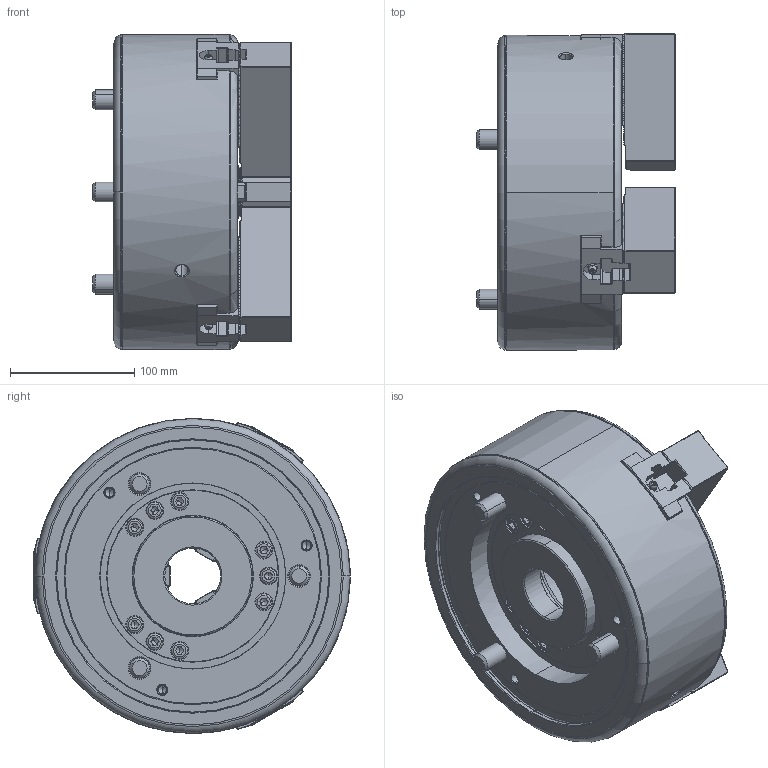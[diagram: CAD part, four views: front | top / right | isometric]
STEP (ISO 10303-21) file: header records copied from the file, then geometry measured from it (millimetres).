
FILE_DESCRIPTION (( 'STEP AP214' ), '1' );
FILE_NAME ('BR10-UC.STEP', '2020-05-25T03:09:58', ( '' ), ( '' ), 'SwSTEP 2.0', 'SolidWorks 2017', '' );
FILE_SCHEMA (( 'AUTOMOTIVE_DESIGN' ));
Length unit declared in the file: millimetre
Products named in the file (5): Part5^BR10-Nishi06 クミタテ; Bアナツキ M12×30; BR10-Nishi05 Plus-Tナット改1_61P417262-1 B-210 Tﾅｯﾄ-ﾃﾞﾌｫﾙﾄ; P31633-7 SB10B1 ソフトジョー_ﾃﾞﾌｫﾙﾄ(外観用); BR10-UC
Assembly tree (13 placements, depth 2):
  BR10-UC
    P31633-7 SB10B1 ソフトジョー_ﾃﾞﾌｫﾙﾄ(外観用)  x3
    BR10-Nishi05 Plus-Tナット改1_61P417262-1 B-210 Tﾅｯﾄ-ﾃﾞﾌｫﾙﾄ  x3
    Bアナツキ M12×30  x6
    Part5^BR10-Nishi06 クミタテ
Bounding box: 160.2 x 255.22 x 254 mm (x, y, z)
Volume: 4658183.2 mm3; surface area: 414145.1 mm2
Topology: 13 solids, 27 shells, 4062 faces, 11141 edges, 7202 vertices
Faces by surface type: plane 3098, cylinder 418, cone 326, bspline 120, torus 86, sphere 14
Entity records: 99616 total; most frequent: CARTESIAN_POINT 23202, ORIENTED_EDGE 16436, DIRECTION 14873, EDGE_CURVE 8218, LINE 6427, VECTOR 6427, VERTEX_POINT 5330, AXIS2_PLACEMENT_3D 4223
